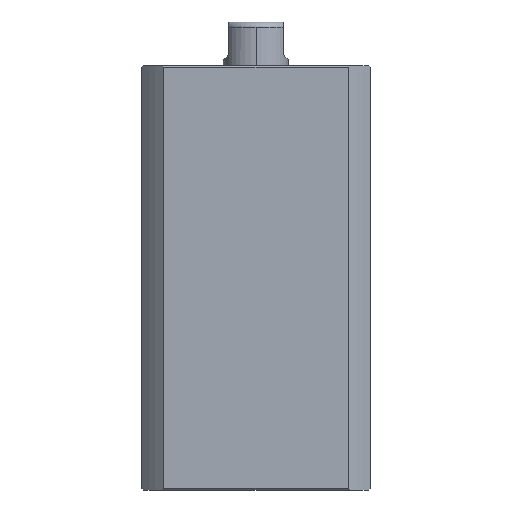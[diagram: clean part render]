
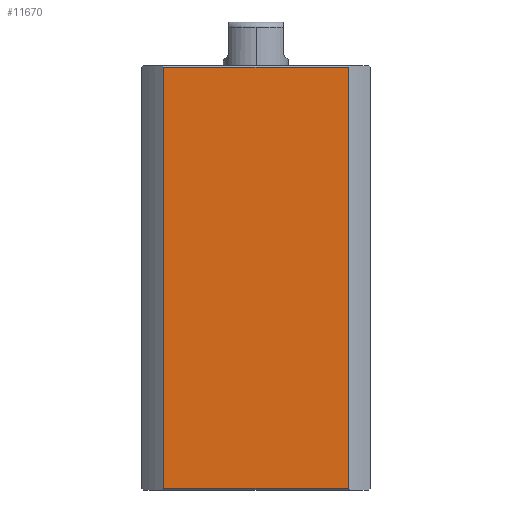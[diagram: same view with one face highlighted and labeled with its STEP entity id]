
A CAD part, left-side view. The second image highlights one B-rep face of the part: STEP entity #11670.
In plain terms, the highlighted planar face has unit normal (-1, 0, 0).
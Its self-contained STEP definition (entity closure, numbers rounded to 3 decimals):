
#272 = DIRECTION ( 'NONE',  ( 1., 0., 0. ) ) ;
#992 = LINE ( 'NONE', #3231, #7893 ) ;
#997 = DIRECTION ( 'NONE',  ( 0., -1., 0. ) ) ;
#1016 = CARTESIAN_POINT ( 'NONE',  ( -21., 21., 77.7 ) ) ;
#1462 = ORIENTED_EDGE ( 'NONE', *, *, #8296, .T. ) ;
#2274 = AXIS2_PLACEMENT_3D ( 'NONE', #10166, #272, #6536 ) ;
#2630 = CARTESIAN_POINT ( 'NONE',  ( -21., 16.971, 77.7 ) ) ;
#2722 = DIRECTION ( 'NONE',  ( 0., 1., 0. ) ) ;
#3231 = CARTESIAN_POINT ( 'NONE',  ( -21., -16.971, -92. ) ) ;
#3382 = ORIENTED_EDGE ( 'NONE', *, *, #8569, .T. ) ;
#3974 = EDGE_LOOP ( 'NONE', ( #8070, #1462, #10051, #3382 ) ) ;
#4966 = LINE ( 'NONE', #9436, #9216 ) ;
#5751 = VERTEX_POINT ( 'NONE', #7856 ) ;
#6495 = PLANE ( 'NONE',  #2274 ) ;
#6536 = DIRECTION ( 'NONE',  ( 0., 1., 0. ) ) ;
#6669 = CARTESIAN_POINT ( 'NONE',  ( -21., -16.971, 0.3 ) ) ;
#6688 = EDGE_CURVE ( 'NONE', #7098, #8223, #4966, .T. ) ;
#7098 = VERTEX_POINT ( 'NONE', #11642 ) ;
#7202 = VECTOR ( 'NONE', #997, 1000. ) ;
#7502 = VERTEX_POINT ( 'NONE', #6669 ) ;
#7794 = LINE ( 'NONE', #9026, #7202 ) ;
#7856 = CARTESIAN_POINT ( 'NONE',  ( -21., -16.971, 77.7 ) ) ;
#7893 = VECTOR ( 'NONE', #8606, 1000. ) ;
#8070 = ORIENTED_EDGE ( 'NONE', *, *, #6688, .F. ) ;
#8223 = VERTEX_POINT ( 'NONE', #2630 ) ;
#8296 = EDGE_CURVE ( 'NONE', #7098, #7502, #7794, .T. ) ;
#8569 = EDGE_CURVE ( 'NONE', #5751, #8223, #10640, .T. ) ;
#8606 = DIRECTION ( 'NONE',  ( 0., 0., -1. ) ) ;
#9026 = CARTESIAN_POINT ( 'NONE',  ( -21., 21., 0.3 ) ) ;
#9216 = VECTOR ( 'NONE', #10362, 1000. ) ;
#9436 = CARTESIAN_POINT ( 'NONE',  ( -21., 16.971, -92. ) ) ;
#10014 = FACE_OUTER_BOUND ( 'NONE', #3974, .T. ) ;
#10051 = ORIENTED_EDGE ( 'NONE', *, *, #11602, .F. ) ;
#10166 = CARTESIAN_POINT ( 'NONE',  ( -21., 21., 78. ) ) ;
#10353 = VECTOR ( 'NONE', #2722, 1000. ) ;
#10362 = DIRECTION ( 'NONE',  ( 0., 0., 1. ) ) ;
#10640 = LINE ( 'NONE', #1016, #10353 ) ;
#11602 = EDGE_CURVE ( 'NONE', #5751, #7502, #992, .T. ) ;
#11642 = CARTESIAN_POINT ( 'NONE',  ( -21., 16.971, 0.3 ) ) ;
#11670 = ADVANCED_FACE ( 'NONE', ( #10014 ), #6495, .F. ) ;
